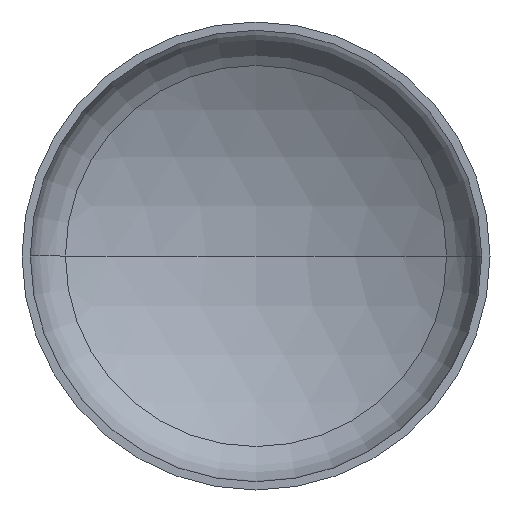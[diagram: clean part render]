
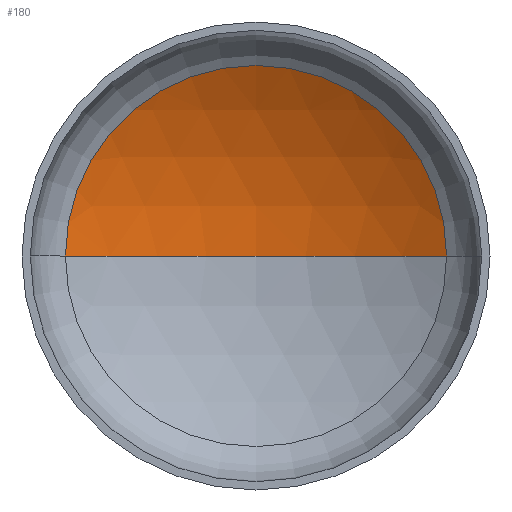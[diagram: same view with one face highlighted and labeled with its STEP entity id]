
A CAD part, front view. The second image highlights one B-rep face of the part: STEP entity #180.
In plain terms, the highlighted spherical face has radius 1520 mm.
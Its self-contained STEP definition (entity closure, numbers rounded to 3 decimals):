
#3 = AXIS2_PLACEMENT_3D ( 'NONE', #42, #277, #280 ) ;
#4 = AXIS2_PLACEMENT_3D ( 'NONE', #167, #379, #241 ) ;
#5 = AXIS2_PLACEMENT_3D ( 'NONE', #233, #94, #123 ) ;
#39 = EDGE_LOOP ( 'NONE', ( #57, #45, #141 ) ) ;
#41 = AXIS2_PLACEMENT_3D ( 'NONE', #196, #208, #288 ) ;
#42 = CARTESIAN_POINT ( 'NONE',  ( 0., -948.784, 0. ) ) ;
#45 = ORIENTED_EDGE ( 'NONE', *, *, #375, .T. ) ;
#51 = VERTEX_POINT ( 'NONE', #239 ) ;
#57 = ORIENTED_EDGE ( 'NONE', *, *, #367, .F. ) ;
#73 = VERTEX_POINT ( 'NONE', #203 ) ;
#94 = DIRECTION ( 'NONE',  ( 0., 0., 1. ) ) ;
#110 = VERTEX_POINT ( 'NONE', #371 ) ;
#123 = DIRECTION ( 'NONE',  ( 1., 0., 0. ) ) ;
#134 = CIRCLE ( 'NONE', #4, 773.593 ) ;
#141 = ORIENTED_EDGE ( 'NONE', *, *, #380, .T. ) ;
#167 = CARTESIAN_POINT ( 'NONE',  ( 0., 359.632, 0. ) ) ;
#180 = ADVANCED_FACE ( 'NONE', ( #256 ), #317, .F. ) ;
#196 = CARTESIAN_POINT ( 'NONE',  ( 0., -948.784, 0. ) ) ;
#203 = CARTESIAN_POINT ( 'NONE',  ( -773.593, 359.632, 0. ) ) ;
#208 = DIRECTION ( 'NONE',  ( 0., 0., -1. ) ) ;
#233 = CARTESIAN_POINT ( 'NONE',  ( 0., -948.784, 0. ) ) ;
#239 = CARTESIAN_POINT ( 'NONE',  ( 773.593, 359.632, 0. ) ) ;
#241 = DIRECTION ( 'NONE',  ( 1., 0., 0. ) ) ;
#256 = FACE_OUTER_BOUND ( 'NONE', #39, .T. ) ;
#267 = CIRCLE ( 'NONE', #5, 1520. ) ;
#277 = DIRECTION ( 'NONE',  ( 0., 0., -1. ) ) ;
#280 = DIRECTION ( 'NONE',  ( -1., 0., 0. ) ) ;
#288 = DIRECTION ( 'NONE',  ( -1., 0., 0. ) ) ;
#317 = SPHERICAL_SURFACE ( 'NONE', #41, 1520. ) ;
#332 = CIRCLE ( 'NONE', #3, 1520. ) ;
#367 = EDGE_CURVE ( 'NONE', #110, #73, #267, .T. ) ;
#371 = CARTESIAN_POINT ( 'NONE',  ( 0., 571.216, 0. ) ) ;
#375 = EDGE_CURVE ( 'NONE', #110, #51, #332, .T. ) ;
#379 = DIRECTION ( 'NONE',  ( 0., -1., 0. ) ) ;
#380 = EDGE_CURVE ( 'NONE', #51, #73, #134, .T. ) ;
